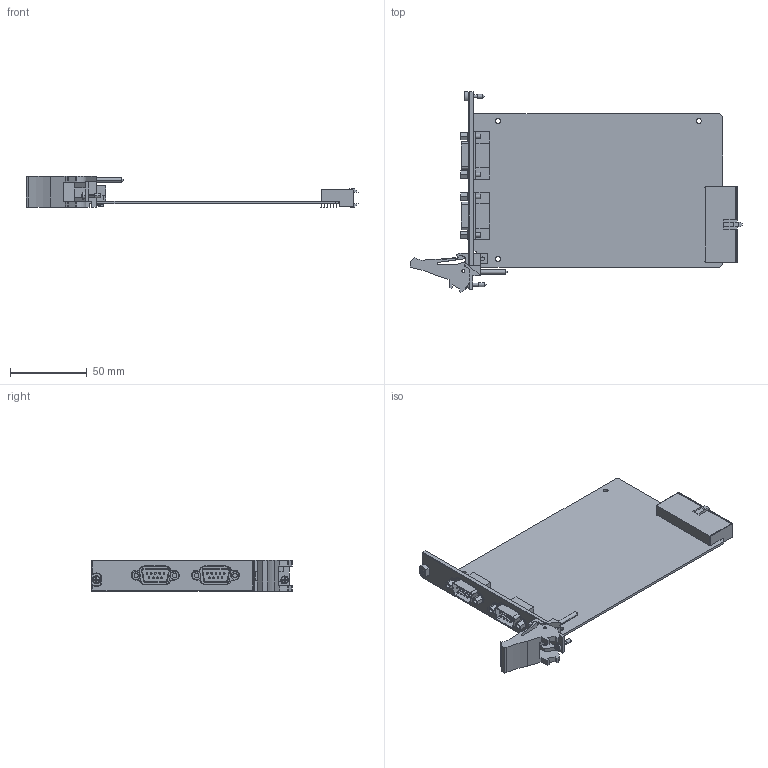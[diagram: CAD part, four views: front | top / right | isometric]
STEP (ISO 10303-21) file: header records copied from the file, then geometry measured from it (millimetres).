
FILE_DESCRIPTION((''),'2;1');
FILE_NAME('CU_PXI-8431_2-SW','2013-09-10T',('gvillanu'),(''),'PRO/ENGINEER BY PARAMETRIC TECHNOLOGY CORPORATION, 2011490','PRO/ENGINEER BY PARAMETRIC TECHNOLOGY CORPORATION, 2011490','');
FILE_SCHEMA(('CONFIG_CONTROL_DESIGN'));
Length unit declared in the file: inch
Products named in the file (1): CU_PXI-8431_2-SW
Bounding box: 216.08 x 130.51 x 20.19 mm (x, y, z)
Surface area: 55665 mm2 (no closed solid volume)
Topology: 0 solids, 29 shells, 552 faces, 1598 edges, 1114 vertices
Faces by surface type: plane 338, cylinder 196, cone 8, sphere 6, torus 4
Entity records: 18331 total; most frequent: CARTESIAN_POINT 3348, DIRECTION 3227, ORIENTED_EDGE 2799, EDGE_CURVE 1594, VERTEX_POINT 1114, AXIS2_PLACEMENT_3D 1094, VECTOR 1039, LINE 1039
